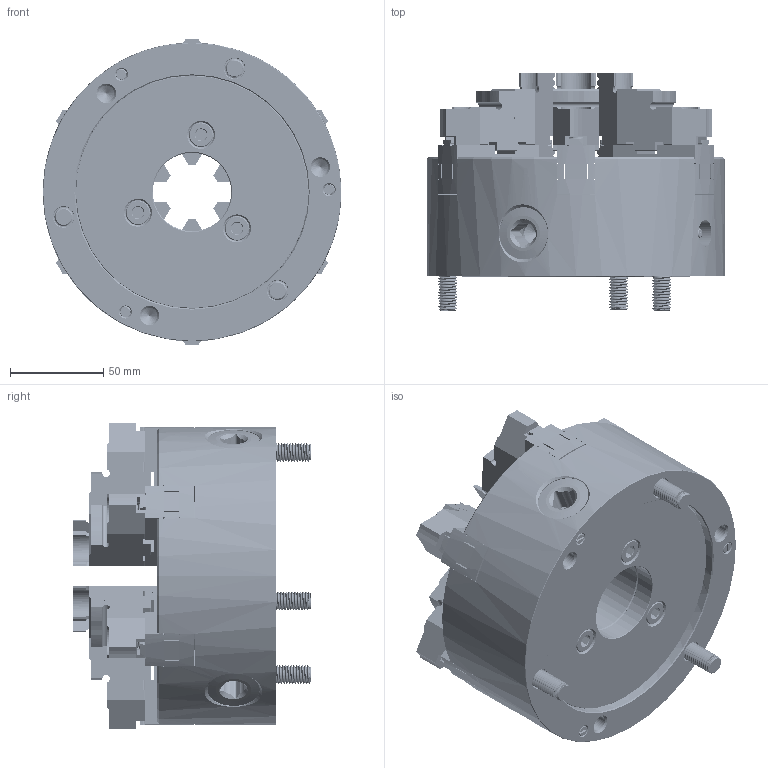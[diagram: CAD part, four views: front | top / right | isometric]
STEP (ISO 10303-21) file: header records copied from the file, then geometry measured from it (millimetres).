
FILE_DESCRIPTION (( 'STEP AP214' ), '1' );
FILE_NAME ('3-816-0600P REV A.STEP', '2024-11-18T13:26:49', ( '' ), ( '' ), 'SwSTEP 2.0', 'SolidWorks 2020', '' );
FILE_SCHEMA (( 'AUTOMOTIVE_DESIGN' ));
Length unit declared in the file: millimetre
Products named in the file (29): 3-883-606P_TOP JAW5; C-CK6-COVER_C-CK6-COVER; 3-816-0600P REV A; 3-897-10070_3-897-10070; C-CK6-BDY6JFM_BODY-816; 3-891-606P_JAW4-FOR-WEBSITE; 3-883-606P_TOP JAW4; 3-885-606P_JAW2-FOR-WEBSITE; 3-891-606P_JAW3-FOR-WEBSITE; 3-887-306P_FOR-WEBSITE; 3-809-906P_3-809-906P; 0.375-16 X0.75 SHCS_0.375-16 X0.75 SHCS; 3-891-606P_JAW1-FOR-WEBSITE; 3-899-310P_3-899-310P; 3-883-606P_TOP JAW6; 3-891-606P_JAW6-FOR-WEBSITE; 3-886-306P_FOR-WEBSITE; 3-885-606P_JAW5-FOR-WEBSITE; 3-891-606P_JAW2-FOR-WEBSITE; 3-888-906P_3-888-906P; 0.375-16 X1.25 SHCS_0.375-16 X1.25 SHCS; 3-885-606P_JAW1-FOR-WEBSITE; 3-885-606P_JAW3-FOR-WEBSITE; 3-883-606P_TOP JAW3; 3-891-606P_JAW5-FOR-WEBSITE; 3-885-606P_JAW4-FOR-WEBSITE; 3-885-606P_JAW6-FOR-WEBSITE; 3-883-606P_TOP JAW2; 3-883-606P_TOP JAW1
Assembly tree (46 placements, depth 3):
  3-816-0600P REV A
    C-CK6-BDY6JFM_BODY-816
    3-887-306P_FOR-WEBSITE
    3-886-306P_FOR-WEBSITE  x3
    C-CK6-COVER_C-CK6-COVER
    3-899-310P_3-899-310P  x3
    3-897-10070_3-897-10070  x3
    3-891-606P_JAW1-FOR-WEBSITE
      3-885-606P_JAW1-FOR-WEBSITE
      3-883-606P_TOP JAW1
      0.375-16 X1.25 SHCS_0.375-16 X1.25 SHCS
      0.375-16 X0.75 SHCS_0.375-16 X0.75 SHCS
    3-891-606P_JAW5-FOR-WEBSITE
      3-885-606P_JAW5-FOR-WEBSITE
      3-883-606P_TOP JAW5
      0.375-16 X1.25 SHCS_0.375-16 X1.25 SHCS
      0.375-16 X0.75 SHCS_0.375-16 X0.75 SHCS
    3-891-606P_JAW6-FOR-WEBSITE
      3-885-606P_JAW6-FOR-WEBSITE
      3-883-606P_TOP JAW6
      0.375-16 X1.25 SHCS_0.375-16 X1.25 SHCS
      0.375-16 X0.75 SHCS_0.375-16 X0.75 SHCS
    3-888-906P_3-888-906P  x3
    3-891-606P_JAW3-FOR-WEBSITE
      3-885-606P_JAW3-FOR-WEBSITE
      3-883-606P_TOP JAW3
      0.375-16 X1.25 SHCS_0.375-16 X1.25 SHCS
      0.375-16 X0.75 SHCS_0.375-16 X0.75 SHCS
    3-891-606P_JAW4-FOR-WEBSITE
      3-885-606P_JAW4-FOR-WEBSITE
      3-883-606P_TOP JAW4
      0.375-16 X1.25 SHCS_0.375-16 X1.25 SHCS
      0.375-16 X0.75 SHCS_0.375-16 X0.75 SHCS
    3-891-606P_JAW2-FOR-WEBSITE
      3-885-606P_JAW2-FOR-WEBSITE
      3-883-606P_TOP JAW2
      0.375-16 X1.25 SHCS_0.375-16 X1.25 SHCS
      0.375-16 X0.75 SHCS_0.375-16 X0.75 SHCS
    3-809-906P_3-809-906P
Bounding box: 160 x 127 x 164.36 mm (x, y, z)
Volume: 1212025.8 mm3; surface area: 347009.6 mm2
Topology: 40 solids, 40 shells, 4862 faces, 13099 edges, 8465 vertices
Faces by surface type: plane 2090, cylinder 1350, cone 760, bspline 565, torus 87, sphere 10
Entity records: 163661 total; most frequent: CARTESIAN_POINT 72834, ORIENTED_EDGE 20346, DIRECTION 16111, EDGE_CURVE 10173, VERTEX_POINT 6649, VECTOR 5911, LINE 5911, AXIS2_PLACEMENT_3D 5100
